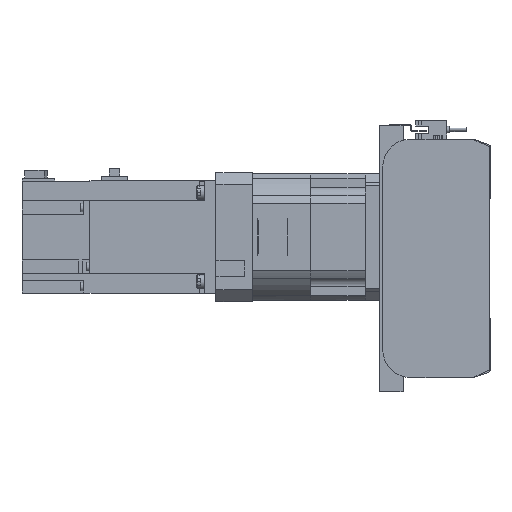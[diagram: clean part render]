
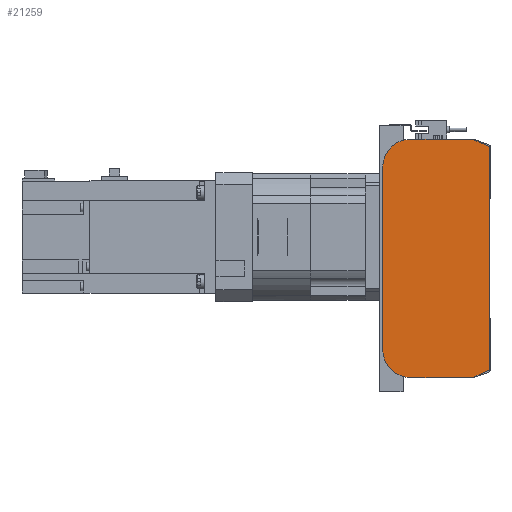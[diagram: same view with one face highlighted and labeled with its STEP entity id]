
A CAD part, left-side view. The second image highlights one B-rep face of the part: STEP entity #21259.
In plain terms, the highlighted planar face has unit normal (-1, 0, 0).
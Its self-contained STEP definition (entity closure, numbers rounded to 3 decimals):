
#1559=CIRCLE('',#23285,2.);
#1560=CIRCLE('',#23288,2.);
#1561=CIRCLE('',#23291,20.);
#1562=CIRCLE('',#23294,20.);
#6172=ORIENTED_EDGE('',*,*,#10011,.F.);
#6173=ORIENTED_EDGE('',*,*,#10089,.F.);
#6174=ORIENTED_EDGE('',*,*,#10087,.F.);
#6175=ORIENTED_EDGE('',*,*,#10085,.F.);
#6176=ORIENTED_EDGE('',*,*,#9818,.F.);
#6177=ORIENTED_EDGE('',*,*,#10084,.F.);
#6178=ORIENTED_EDGE('',*,*,#10082,.F.);
#6179=ORIENTED_EDGE('',*,*,#10080,.F.);
#6180=ORIENTED_EDGE('',*,*,#10078,.F.);
#6181=ORIENTED_EDGE('',*,*,#10076,.F.);
#9818=EDGE_CURVE('',#12124,#12125,#13946,.T.);
#10011=EDGE_CURVE('',#12196,#12197,#14060,.T.);
#10076=EDGE_CURVE('',#12197,#12238,#14105,.T.);
#10078=EDGE_CURVE('',#12238,#12239,#1559,.T.);
#10080=EDGE_CURVE('',#12239,#12240,#14108,.T.);
#10082=EDGE_CURVE('',#12240,#12241,#1560,.T.);
#10084=EDGE_CURVE('',#12241,#12124,#14111,.T.);
#10085=EDGE_CURVE('',#12125,#12242,#1561,.T.);
#10087=EDGE_CURVE('',#12242,#12243,#14113,.T.);
#10089=EDGE_CURVE('',#12243,#12196,#1562,.T.);
#12124=VERTEX_POINT('',#35556);
#12125=VERTEX_POINT('',#35558);
#12196=VERTEX_POINT('',#35874);
#12197=VERTEX_POINT('',#35876);
#12238=VERTEX_POINT('',#36006);
#12239=VERTEX_POINT('',#36010);
#12240=VERTEX_POINT('',#36014);
#12241=VERTEX_POINT('',#36018);
#12242=VERTEX_POINT('',#36024);
#12243=VERTEX_POINT('',#36028);
#13946=LINE('',#35557,#15779);
#14060=LINE('',#35875,#15893);
#14105=LINE('',#36005,#15938);
#14108=LINE('',#36013,#15941);
#14111=LINE('',#36021,#15944);
#14113=LINE('',#36027,#15946);
#15779=VECTOR('',#28259,1000.);
#15893=VECTOR('',#28637,1000.);
#15938=VECTOR('',#28770,1000.);
#15941=VECTOR('',#28779,1000.);
#15944=VECTOR('',#28788,1000.);
#15946=VECTOR('',#28796,1000.);
#17472=EDGE_LOOP('',(#6172,#6173,#6174,#6175,#6176,#6177,#6178,#6179,#6180,
#6181));
#19205=FACE_BOUND('',#17472,.T.);
#20166=PLANE('',#23296);
#21259=ADVANCED_FACE('',(#19205),#20166,.F.);
#23285=AXIS2_PLACEMENT_3D('',#36009,#28774,#28775);
#23288=AXIS2_PLACEMENT_3D('',#36017,#28783,#28784);
#23291=AXIS2_PLACEMENT_3D('',#36023,#28791,#28792);
#23294=AXIS2_PLACEMENT_3D('',#36031,#28800,#28801);
#23296=AXIS2_PLACEMENT_3D('',#36033,#28804,#28805);
#28259=DIRECTION('',(0.,1.,0.));
#28637=DIRECTION('',(0.,-1.,0.));
#28770=DIRECTION('',(0.,-0.913,-0.408));
#28774=DIRECTION('',(1.,0.,0.));
#28775=DIRECTION('',(0.,0.,-1.));
#28779=DIRECTION('',(0.,0.,-1.));
#28783=DIRECTION('',(1.,0.,0.));
#28784=DIRECTION('',(0.,0.,-1.));
#28788=DIRECTION('',(0.,0.913,-0.408));
#28791=DIRECTION('',(1.,0.,0.));
#28792=DIRECTION('',(0.,0.,-1.));
#28796=DIRECTION('',(0.,0.,1.));
#28800=DIRECTION('',(1.,0.,0.));
#28801=DIRECTION('',(0.,0.,-1.));
#28804=DIRECTION('',(1.,0.,0.));
#28805=DIRECTION('',(0.,0.,-1.));
#35556=CARTESIAN_POINT('',(0.,12.33,-85.));
#35557=CARTESIAN_POINT('',(0.,12.33,-85.));
#35558=CARTESIAN_POINT('',(0.,56.5,-85.));
#35874=CARTESIAN_POINT('',(0.,56.5,85.));
#35875=CARTESIAN_POINT('',(0.,56.5,85.));
#35876=CARTESIAN_POINT('',(0.,12.33,85.));
#36005=CARTESIAN_POINT('',(0.,12.33,85.));
#36006=CARTESIAN_POINT('',(0.,1.684,80.239));
#36009=CARTESIAN_POINT('',(0.,2.5,78.413));
#36010=CARTESIAN_POINT('',(0.,0.5,78.413));
#36013=CARTESIAN_POINT('',(0.,0.5,78.413));
#36014=CARTESIAN_POINT('',(0.,0.5,-78.413));
#36017=CARTESIAN_POINT('',(0.,2.5,-78.413));
#36018=CARTESIAN_POINT('',(0.,1.684,-80.239));
#36021=CARTESIAN_POINT('',(0.,1.684,-80.239));
#36023=CARTESIAN_POINT('',(0.,56.5,-65.));
#36024=CARTESIAN_POINT('',(0.,76.5,-65.));
#36027=CARTESIAN_POINT('',(0.,76.5,-65.));
#36028=CARTESIAN_POINT('',(0.,76.5,65.));
#36031=CARTESIAN_POINT('',(0.,56.5,65.));
#36033=CARTESIAN_POINT('',(0.,2.5,78.413));
